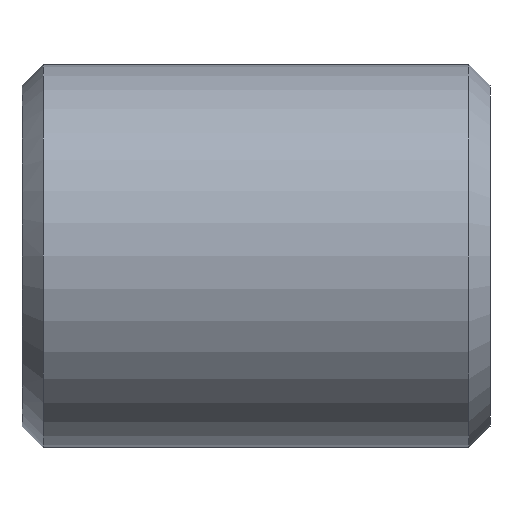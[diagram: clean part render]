
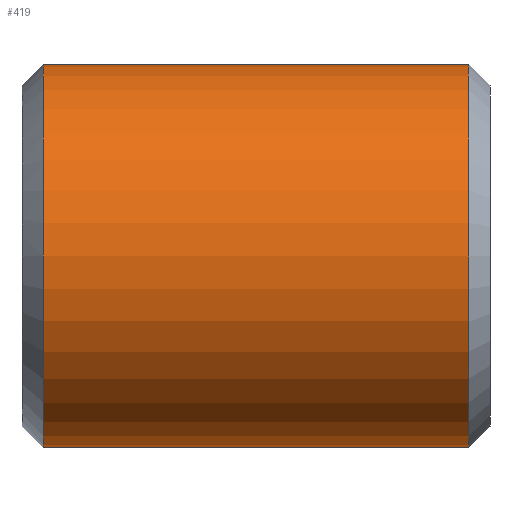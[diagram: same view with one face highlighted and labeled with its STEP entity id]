
A CAD part, front view. The second image highlights one B-rep face of the part: STEP entity #419.
In plain terms, the highlighted cylindrical face has radius 9 mm (diameter 18 mm), a partial arc.
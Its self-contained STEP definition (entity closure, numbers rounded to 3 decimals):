
#231=CARTESIAN_POINT('Vertex',(1.,0.,-9.)) ;
#238=CARTESIAN_POINT('Vertex',(1.,0.,9.)) ;
#267=CARTESIAN_POINT('Axis2P3D Location',(1.,0.,0.)) ;
#271=CARTESIAN_POINT('Vertex',(1.,-9.,0.)) ;
#274=CARTESIAN_POINT('Axis2P3D Location',(1.,0.,0.)) ;
#359=CARTESIAN_POINT('Line Origine',(22.,0.,9.)) ;
#363=CARTESIAN_POINT('Vertex',(21.,0.,9.)) ;
#377=CARTESIAN_POINT('Vertex',(21.,0.,-9.)) ;
#380=CARTESIAN_POINT('Line Origine',(22.,0.,-9.)) ;
#394=CARTESIAN_POINT('Axis2P3D Location',(22.,0.,0.)) ;
#399=CARTESIAN_POINT('Axis2P3D Location',(21.,0.,0.)) ;
#403=CARTESIAN_POINT('Vertex',(21.,-9.,0.)) ;
#406=CARTESIAN_POINT('Axis2P3D Location',(21.,0.,0.)) ;
#268=DIRECTION('Axis2P3D Direction',(1.,0.,-0.)) ;
#275=DIRECTION('Axis2P3D Direction',(1.,0.,-0.)) ;
#360=DIRECTION('Vector Direction',(-1.,0.,0.)) ;
#381=DIRECTION('Vector Direction',(-1.,0.,0.)) ;
#395=DIRECTION('Axis2P3D Direction',(-1.,-0.,-0.)) ;
#396=DIRECTION('Axis2P3D XDirection',(0.,0.,-1.)) ;
#400=DIRECTION('Axis2P3D Direction',(-1.,-0.,-0.)) ;
#407=DIRECTION('Axis2P3D Direction',(-1.,-0.,-0.)) ;
#269=AXIS2_PLACEMENT_3D('Circle Axis2P3D',#267,#268,$) ;
#276=AXIS2_PLACEMENT_3D('Circle Axis2P3D',#274,#275,$) ;
#397=AXIS2_PLACEMENT_3D('Cylinder Axis2P3D',#394,#395,#396) ;
#401=AXIS2_PLACEMENT_3D('Circle Axis2P3D',#399,#400,$) ;
#408=AXIS2_PLACEMENT_3D('Circle Axis2P3D',#406,#407,$) ;
#412=ORIENTED_EDGE('',*,*,#384,.T.) ;
#413=ORIENTED_EDGE('',*,*,#405,.F.) ;
#414=ORIENTED_EDGE('',*,*,#410,.F.) ;
#415=ORIENTED_EDGE('',*,*,#365,.T.) ;
#416=ORIENTED_EDGE('',*,*,#278,.T.) ;
#417=ORIENTED_EDGE('',*,*,#273,.T.) ;
#361=VECTOR('Line Direction',#360,1.) ;
#382=VECTOR('Line Direction',#381,1.) ;
#419=ADVANCED_FACE('352-12X22',(#418),#398,.T.) ;
#270=CIRCLE('generated circle',#269,9.) ;
#277=CIRCLE('generated circle',#276,9.) ;
#402=CIRCLE('generated circle',#401,9.) ;
#409=CIRCLE('generated circle',#408,9.) ;
#398=CYLINDRICAL_SURFACE('generated cylinder',#397,9.) ;
#273=EDGE_CURVE('',#272,#232,#270,.T.) ;
#278=EDGE_CURVE('',#239,#272,#277,.T.) ;
#365=EDGE_CURVE('',#364,#239,#362,.T.) ;
#384=EDGE_CURVE('',#232,#378,#383,.F.) ;
#405=EDGE_CURVE('',#404,#378,#402,.F.) ;
#410=EDGE_CURVE('',#364,#404,#409,.F.) ;
#411=EDGE_LOOP('',(#412,#413,#414,#415,#416,#417)) ;
#418=FACE_OUTER_BOUND('',#411,.T.) ;
#362=LINE('Line',#359,#361) ;
#383=LINE('Line',#380,#382) ;
#232=VERTEX_POINT('',#231) ;
#239=VERTEX_POINT('',#238) ;
#272=VERTEX_POINT('',#271) ;
#364=VERTEX_POINT('',#363) ;
#378=VERTEX_POINT('',#377) ;
#404=VERTEX_POINT('',#403) ;
